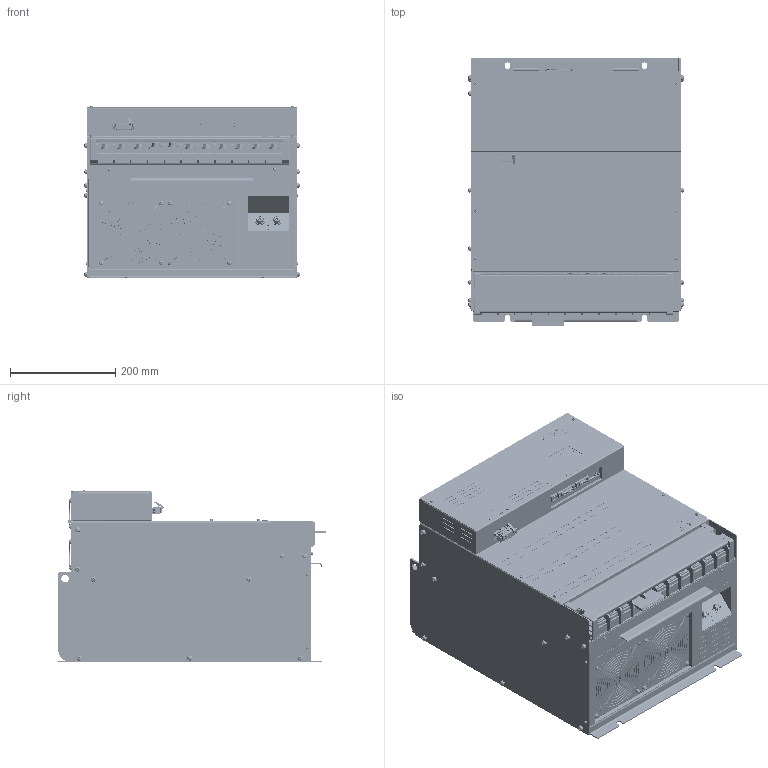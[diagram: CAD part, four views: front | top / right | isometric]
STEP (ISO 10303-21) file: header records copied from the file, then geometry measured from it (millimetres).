
FILE_DESCRIPTION (( 'STEP AP203' ), '1' );
FILE_NAME ('NCR-HA2-3_373#SE-82782.STEP', '2021-07-07T08:41:17', ( '' ), ( '' ), 'SwSTEP 2.0', 'SolidWorks 2018', '' );
FILE_SCHEMA (( 'CONFIG_CONTROL_DESIGN' ));
Products named in the file (1): NCR-HA2-3_373#SE-82782
Bounding box: 409.06 x 508 x 327.95 mm (x, y, z)
Volume: 50165203 mm3; surface area: 1543926.4 mm2
Topology: 4 solids, 43 shells, 14192 faces, 38318 edges, 24653 vertices
Faces by surface type: plane 8617, cylinder 2416, bspline 1677, cone 1186, torus 206, sphere 90
Entity records: 502029 total; most frequent: CARTESIAN_POINT 151602, ORIENTED_EDGE 76432, DIRECTION 67844, EDGE_CURVE 38216, VERTEX_POINT 24653, LINE 24276, VECTOR 24276, AXIS2_PLACEMENT_3D 21784
